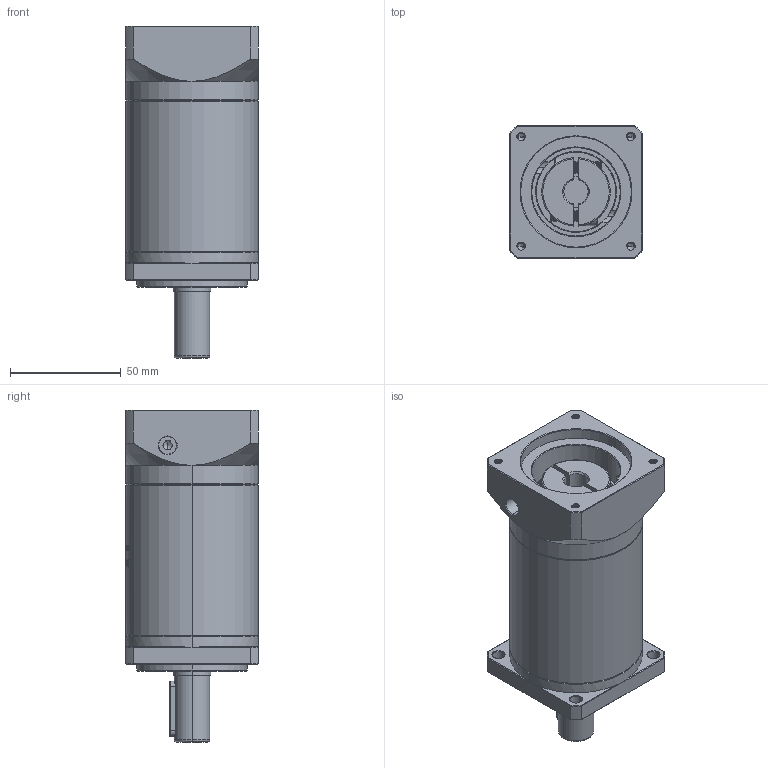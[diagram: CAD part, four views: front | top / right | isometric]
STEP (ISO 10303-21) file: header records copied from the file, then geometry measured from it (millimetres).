
FILE_DESCRIPTION (( 'STEP AP214' ), '1' );
FILE_NAME ('ZF060-D16-L3-P2-11-50-70-M4.step', '2023-08-16T04:28:08', ( '' ), ( '' ), 'SwSTEP 2.0', 'SolidWorks 2016', '' );
FILE_SCHEMA (( 'AUTOMOTIVE_DESIGN' ));
Length unit declared in the file: millimetre
Products named in the file (1): ZF060-D16-L3-P2-11-50-70-M4
Bounding box: 60 x 60 x 150 mm (x, y, z)
Volume: 321978.2 mm3; surface area: 50535.4 mm2
Topology: 6 solids, 6 shells, 1734 faces, 4694 edges, 3043 vertices
Faces by surface type: plane 794, bspline 354, cylinder 332, cone 236, torus 18
Entity records: 96247 total; most frequent: CARTESIAN_POINT 37708, ORIENTED_EDGE 9360, DIRECTION 6704, EDGE_CURVE 4680, VERTEX_POINT 3043, LINE 2372, VECTOR 2372, AXIS2_PLACEMENT_3D 2166
